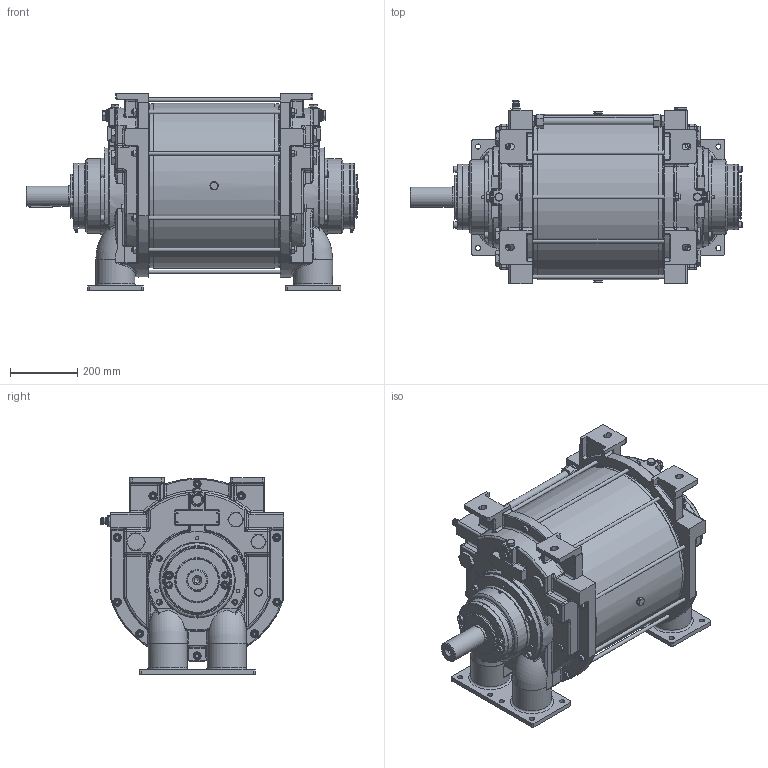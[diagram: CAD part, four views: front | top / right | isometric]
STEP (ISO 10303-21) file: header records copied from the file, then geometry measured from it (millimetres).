
FILE_DESCRIPTION(/* description */ (''),/* implementation_level */ '2;1');
FILE_NAME(/* name */ 'E:\WorkSpace\Designs\1700\1700046.stp',/* time_stamp */ '2022-04-29T15:09:23+02:00',/* author */ ('JJ'),/* organization */ (''),/* preprocessor_version */ 'ST-DEVELOPER v18.1',/* originating_system */ 'Autodesk Inventor 2022',/* authorisation */ '');
FILE_SCHEMA (('CONFIG_CONTROL_DESIGN'));
Products named in the file (1): 1700046
Bounding box: 987.75 x 545.5 x 585 mm (x, y, z)
Volume: 127769593.1 mm3; surface area: 2721706 mm2
Topology: 1 solids, 1 shells, 2048 faces, 4871 edges, 2971 vertices
Faces by surface type: plane 759, cylinder 651, cone 227, torus 197, bspline 142, sphere 72
Full cylindrical faces by diameter (mm): 3.3 x8, 8 x2, 10 x2, 10.106 x6, 10.75 x10, 12 x39, 13 x23, 15 x17, 17.294 x1, 18 x16, 19.847 x1, 19.984 x1, 20 x7, 21.8 x6, 22 x1, 23.8 x6, 24 x20, 24.5 x4, 26 x2, 27 x2, 28.58 x2, 30 x1, 31.8 x3, 34.93 x1, 35 x2, 39.8 x4, 42.8 x4, 49.8 x2, 52.38 x2, 60 x1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
Entity records: 68002 total; most frequent: CARTESIAN_POINT 20405, ORIENTED_EDGE 9580, DIRECTION 9475, EDGE_CURVE 4790, AXIS2_PLACEMENT_3D 3856, VERTEX_POINT 2967, EDGE_LOOP 2355, FACE_OUTER_BOUND 2048
